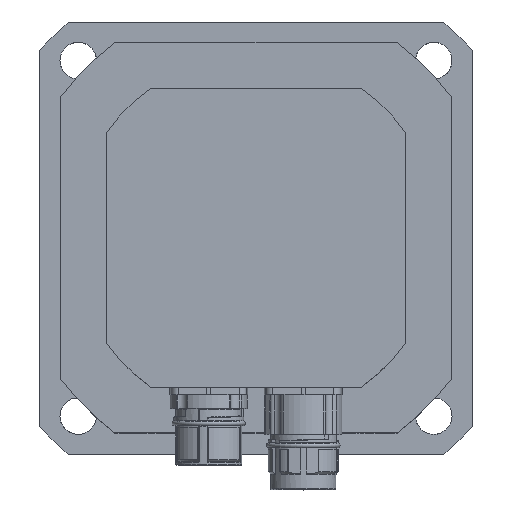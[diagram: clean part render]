
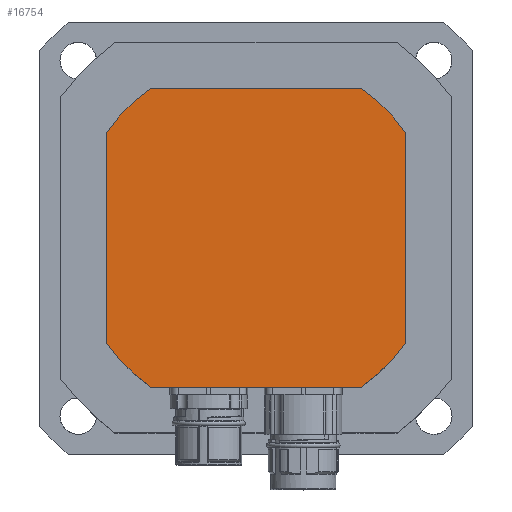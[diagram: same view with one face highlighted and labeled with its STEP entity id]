
A CAD part, top view. The second image highlights one B-rep face of the part: STEP entity #16754.
In plain terms, the highlighted planar face has unit normal (0, 0, 1).
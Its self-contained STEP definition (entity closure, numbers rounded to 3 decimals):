
#446=PLANE('',#17827);
#1938=LINE('',#25093,#2818);
#1944=LINE('',#25104,#2824);
#2000=LINE('',#25284,#2880);
#2003=LINE('',#25290,#2883);
#2818=VECTOR('',#19932,69.253);
#2824=VECTOR('',#19940,69.253);
#2880=VECTOR('',#20144,69.253);
#2883=VECTOR('',#20149,69.253);
#4035=FACE_OUTER_BOUND('',#5077,.T.);
#5077=EDGE_LOOP('',(#12096,#12097,#12098,#12099,#12100,#12101,#12102,#12103));
#6231=CIRCLE('',#17820,60.);
#6232=CIRCLE('',#17822,60.);
#6233=CIRCLE('',#17824,60.);
#6234=CIRCLE('',#17826,60.);
#7723=VERTEX_POINT('',#25090);
#7724=VERTEX_POINT('',#25092);
#7727=VERTEX_POINT('',#25101);
#7728=VERTEX_POINT('',#25103);
#7777=VERTEX_POINT('',#25281);
#7778=VERTEX_POINT('',#25283);
#7779=VERTEX_POINT('',#25287);
#7780=VERTEX_POINT('',#25289);
#9354=EDGE_CURVE('',#7724,#7723,#1938,.T.);
#9360=EDGE_CURVE('',#7728,#7727,#1944,.T.);
#9443=EDGE_CURVE('',#7778,#7777,#2000,.T.);
#9446=EDGE_CURVE('',#7780,#7779,#2003,.T.);
#9448=EDGE_CURVE('',#7780,#7727,#6231,.T.);
#9449=EDGE_CURVE('',#7728,#7777,#6232,.T.);
#9450=EDGE_CURVE('',#7724,#7779,#6233,.T.);
#9451=EDGE_CURVE('',#7778,#7723,#6234,.T.);
#12096=ORIENTED_EDGE('',*,*,#9354,.T.);
#12097=ORIENTED_EDGE('',*,*,#9451,.F.);
#12098=ORIENTED_EDGE('',*,*,#9443,.T.);
#12099=ORIENTED_EDGE('',*,*,#9449,.F.);
#12100=ORIENTED_EDGE('',*,*,#9360,.T.);
#12101=ORIENTED_EDGE('',*,*,#9448,.F.);
#12102=ORIENTED_EDGE('',*,*,#9446,.T.);
#12103=ORIENTED_EDGE('',*,*,#9450,.F.);
#16754=ADVANCED_FACE('',(#4035),#446,.F.);
#17820=AXIS2_PLACEMENT_3D('',#25293,#20153,#20154);
#17822=AXIS2_PLACEMENT_3D('',#25295,#20157,#20158);
#17824=AXIS2_PLACEMENT_3D('',#25297,#20161,#20162);
#17826=AXIS2_PLACEMENT_3D('',#25299,#20165,#20166);
#17827=AXIS2_PLACEMENT_3D('',#25300,#20167,#20168);
#19932=DIRECTION('',(0.,-1.,0.));
#19940=DIRECTION('',(0.,1.,0.));
#20144=DIRECTION('',(1.,0.,0.));
#20149=DIRECTION('',(-1.,0.,0.));
#20153=DIRECTION('center_axis',(0.,0.,-1.));
#20154=DIRECTION('ref_axis',(-1.,0.,0.));
#20157=DIRECTION('center_axis',(0.,0.,-1.));
#20158=DIRECTION('ref_axis',(-1.,0.,0.));
#20161=DIRECTION('center_axis',(0.,0.,-1.));
#20162=DIRECTION('ref_axis',(-1.,0.,0.));
#20165=DIRECTION('center_axis',(0.,0.,-1.));
#20166=DIRECTION('ref_axis',(-1.,0.,0.));
#20167=DIRECTION('center_axis',(0.,0.,-1.));
#20168=DIRECTION('ref_axis',(-1.,0.,0.));
#25090=CARTESIAN_POINT('',(-49.,-34.627,33.));
#25092=CARTESIAN_POINT('',(-49.,34.627,33.));
#25093=CARTESIAN_POINT('',(-49.,24.5,33.));
#25101=CARTESIAN_POINT('',(49.,34.627,33.));
#25103=CARTESIAN_POINT('',(49.,-34.627,33.));
#25104=CARTESIAN_POINT('',(49.,-24.5,33.));
#25281=CARTESIAN_POINT('',(34.627,-49.,33.));
#25283=CARTESIAN_POINT('',(-34.627,-49.,33.));
#25284=CARTESIAN_POINT('',(-24.5,-49.,33.));
#25287=CARTESIAN_POINT('',(-34.627,49.,33.));
#25289=CARTESIAN_POINT('',(34.627,49.,33.));
#25290=CARTESIAN_POINT('',(24.5,49.,33.));
#25293=CARTESIAN_POINT('Origin',(0.,0.,33.));
#25295=CARTESIAN_POINT('Origin',(0.,0.,33.));
#25297=CARTESIAN_POINT('Origin',(0.,0.,33.));
#25299=CARTESIAN_POINT('Origin',(0.,0.,33.));
#25300=CARTESIAN_POINT('Origin',(0.,0.,33.));
